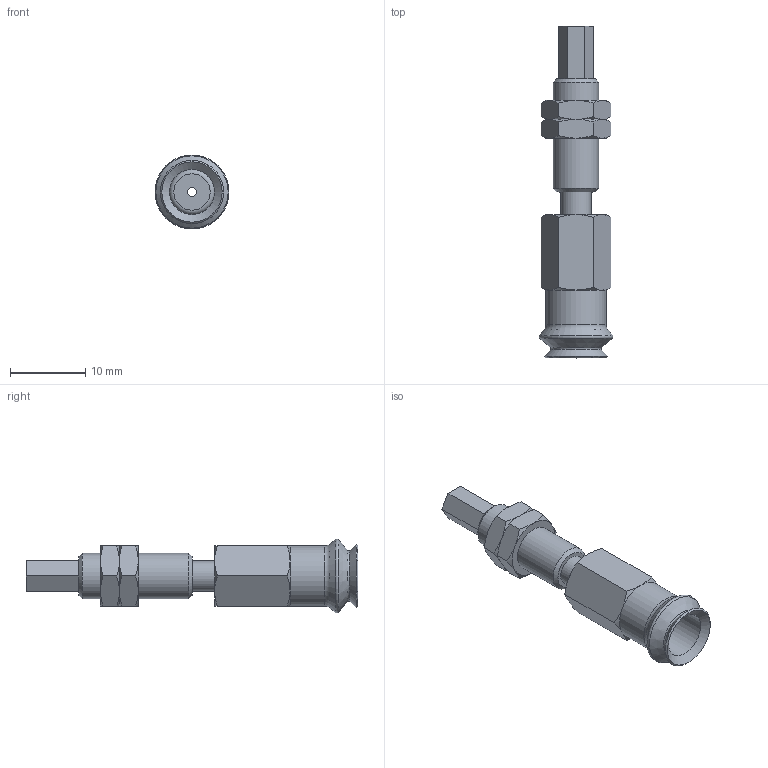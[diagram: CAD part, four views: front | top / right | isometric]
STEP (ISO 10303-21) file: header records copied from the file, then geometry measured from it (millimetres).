
FILE_DESCRIPTION(('STEP AP203'),'1');
FILE_NAME('.stp','2025-08-27T07:22:25',(' '),(' '),'Spatial InterOp 3D',' ',' ');
FILE_SCHEMA(('CONFIG_CONTROL_DESIGN'));
Length unit declared in the file: millimetre
Products named in the file (6): BNABPJTS-8-3-※; ADAPTER; NAPCTS-7-3-MBODY; NUT-NAPJ-8-3-s; NAPJTS-8-3-FBODY; BPJG-8-※
Assembly tree (6 placements, depth 2):
  BNABPJTS-8-3-※
    ADAPTER
    NAPCTS-7-3-MBODY
    NUT-NAPJ-8-3-s  x2
    NAPJTS-8-3-FBODY
    BPJG-8-※
Bounding box: 9.8 x 44 x 9.8 mm (x, y, z)
Volume: 1533.4 mm3; surface area: 2284.8 mm2
Topology: 6 solids, 6 shells, 114 faces, 239 edges, 140 vertices
Faces by surface type: cone 49, plane 45, cylinder 13, torus 7
Full cylindrical faces by diameter (mm): 1.2 x2, 2.459 x1, 4 x4, 5.188 x2, 6 x3, 8 x1
Entity records: 2678 total; most frequent: CARTESIAN_POINT 624, DIRECTION 372, ORIENTED_EDGE 310, AXIS2_PLACEMENT_3D 168, EDGE_CURVE 155, EDGE_LOOP 133, FACE_OUTER_BOUND 110, VERTEX_POINT 106
